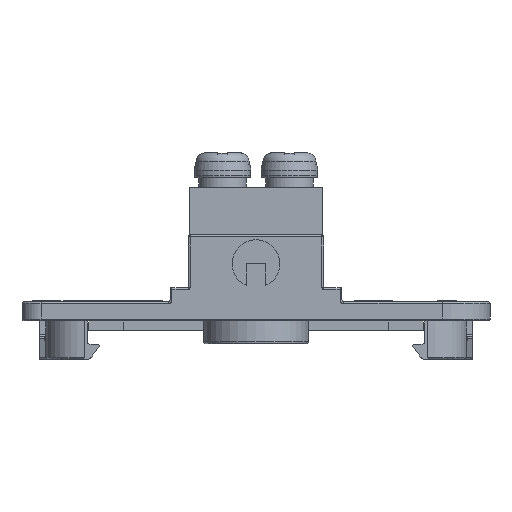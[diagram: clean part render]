
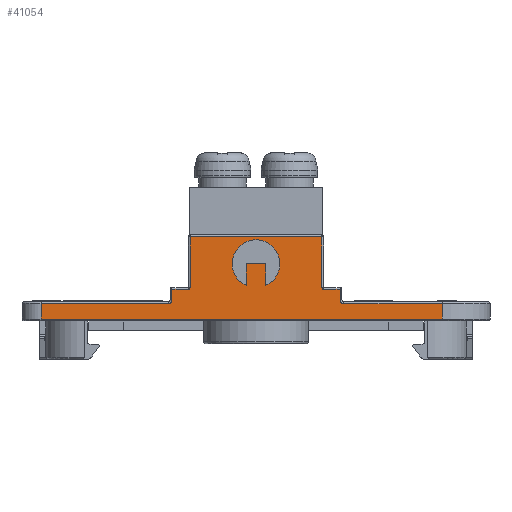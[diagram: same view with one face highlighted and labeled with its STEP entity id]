
A CAD part, left-side view. The second image highlights one B-rep face of the part: STEP entity #41054.
In plain terms, the highlighted planar face has unit normal (-1, 0, 0).
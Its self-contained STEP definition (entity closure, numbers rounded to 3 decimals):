
#2408=LINE('',#58707,#5237);
#2410=LINE('',#58711,#5239);
#2412=LINE('',#58715,#5241);
#2627=LINE('',#59244,#5456);
#2726=LINE('',#59509,#5555);
#2727=LINE('',#59514,#5556);
#2728=LINE('',#59516,#5557);
#2729=LINE('',#59518,#5558);
#2730=LINE('',#59519,#5559);
#2731=LINE('',#59523,#5560);
#2732=LINE('',#59525,#5561);
#2733=LINE('',#59529,#5562);
#2734=LINE('',#59531,#5563);
#2735=LINE('',#59533,#5564);
#2736=LINE('',#59537,#5565);
#5237=VECTOR('',#47704,1000.);
#5239=VECTOR('',#47708,1000.);
#5241=VECTOR('',#47712,1000.);
#5456=VECTOR('',#48117,1000.);
#5555=VECTOR('',#48378,1000.);
#5556=VECTOR('',#48381,1000.);
#5557=VECTOR('',#48382,1000.);
#5558=VECTOR('',#48383,1000.);
#5559=VECTOR('',#48384,1000.);
#5560=VECTOR('',#48387,1000.);
#5561=VECTOR('',#48388,1000.);
#5562=VECTOR('',#48391,1000.);
#5563=VECTOR('',#48392,1000.);
#5564=VECTOR('',#48393,1000.);
#5565=VECTOR('',#48396,1000.);
#10520=ORIENTED_EDGE('',*,*,#17517,.T.);
#10521=ORIENTED_EDGE('',*,*,#17518,.T.);
#10522=ORIENTED_EDGE('',*,*,#17519,.T.);
#10523=ORIENTED_EDGE('',*,*,#17520,.T.);
#10524=ORIENTED_EDGE('',*,*,#17521,.T.);
#10525=ORIENTED_EDGE('',*,*,#17379,.T.);
#10526=ORIENTED_EDGE('',*,*,#17522,.T.);
#10527=ORIENTED_EDGE('',*,*,#17523,.T.);
#10528=ORIENTED_EDGE('',*,*,#17524,.T.);
#10529=ORIENTED_EDGE('',*,*,#17525,.T.);
#10530=ORIENTED_EDGE('',*,*,#17526,.F.);
#10531=ORIENTED_EDGE('',*,*,#17527,.T.);
#10532=ORIENTED_EDGE('',*,*,#17528,.T.);
#10533=ORIENTED_EDGE('',*,*,#17529,.T.);
#10534=ORIENTED_EDGE('',*,*,#17530,.F.);
#10535=ORIENTED_EDGE('',*,*,#17531,.T.);
#10536=ORIENTED_EDGE('',*,*,#17130,.T.);
#10537=ORIENTED_EDGE('',*,*,#17128,.F.);
#10538=ORIENTED_EDGE('',*,*,#17126,.T.);
#10539=ORIENTED_EDGE('',*,*,#17123,.T.);
#17123=EDGE_CURVE('',#20913,#20914,#22525,.T.);
#17126=EDGE_CURVE('',#20915,#20913,#2408,.T.);
#17128=EDGE_CURVE('',#20915,#20916,#2410,.T.);
#17130=EDGE_CURVE('',#20914,#20916,#2412,.T.);
#17379=EDGE_CURVE('',#21136,#21137,#2627,.F.);
#17517=EDGE_CURVE('',#21221,#21222,#2726,.F.);
#17518=EDGE_CURVE('',#21222,#21223,#22599,.F.);
#17519=EDGE_CURVE('',#21223,#21224,#2727,.F.);
#17520=EDGE_CURVE('',#21224,#21225,#2728,.T.);
#17521=EDGE_CURVE('',#21225,#21136,#2729,.F.);
#17522=EDGE_CURVE('',#21137,#21226,#2730,.F.);
#17523=EDGE_CURVE('',#21226,#21227,#22600,.F.);
#17524=EDGE_CURVE('',#21227,#21228,#2731,.F.);
#17525=EDGE_CURVE('',#21228,#21229,#2732,.F.);
#17526=EDGE_CURVE('',#21230,#21229,#22601,.T.);
#17527=EDGE_CURVE('',#21230,#21231,#2733,.F.);
#17528=EDGE_CURVE('',#21231,#21232,#2734,.F.);
#17529=EDGE_CURVE('',#21232,#21233,#2735,.F.);
#17530=EDGE_CURVE('',#21234,#21233,#22602,.T.);
#17531=EDGE_CURVE('',#21234,#21221,#2736,.F.);
#20913=VERTEX_POINT('',#58702);
#20914=VERTEX_POINT('',#58703);
#20915=VERTEX_POINT('',#58708);
#20916=VERTEX_POINT('',#58712);
#21136=VERTEX_POINT('',#59245);
#21137=VERTEX_POINT('',#59246);
#21221=VERTEX_POINT('',#59510);
#21222=VERTEX_POINT('',#59511);
#21223=VERTEX_POINT('',#59513);
#21224=VERTEX_POINT('',#59515);
#21225=VERTEX_POINT('',#59517);
#21226=VERTEX_POINT('',#59520);
#21227=VERTEX_POINT('',#59522);
#21228=VERTEX_POINT('',#59524);
#21229=VERTEX_POINT('',#59526);
#21230=VERTEX_POINT('',#59528);
#21231=VERTEX_POINT('',#59530);
#21232=VERTEX_POINT('',#59532);
#21233=VERTEX_POINT('',#59534);
#21234=VERTEX_POINT('',#59536);
#22525=CIRCLE('',#43039,2.5);
#22599=CIRCLE('',#43219,0.4);
#22600=CIRCLE('',#43220,0.4);
#22601=CIRCLE('',#43221,0.2);
#22602=CIRCLE('',#43222,0.2);
#23855=EDGE_LOOP('',(#10520,#10521,#10522,#10523,#10524,#10525,#10526,#10527,
#10528,#10529,#10530,#10531,#10532,#10533,#10534,#10535));
#23856=EDGE_LOOP('',(#10536,#10537,#10538,#10539));
#25962=FACE_BOUND('',#23855,.T.);
#25963=FACE_BOUND('',#23856,.T.);
#27746=PLANE('',#43218);
#41054=ADVANCED_FACE('',(#25962,#25963),#27746,.T.);
#43039=AXIS2_PLACEMENT_3D('',#58701,#47698,#47699);
#43218=AXIS2_PLACEMENT_3D('',#59508,#48376,#48377);
#43219=AXIS2_PLACEMENT_3D('',#59512,#48379,#48380);
#43220=AXIS2_PLACEMENT_3D('',#59521,#48385,#48386);
#43221=AXIS2_PLACEMENT_3D('',#59527,#48389,#48390);
#43222=AXIS2_PLACEMENT_3D('',#59535,#48394,#48395);
#47698=DIRECTION('',(1.,0.,0.));
#47699=DIRECTION('',(0.,0.,-1.));
#47704=DIRECTION('',(0.,0.,-1.));
#47708=DIRECTION('',(0.,-1.,0.));
#47712=DIRECTION('',(0.,0.,1.));
#48117=DIRECTION('',(0.,0.,-1.));
#48376=DIRECTION('',(-1.,0.,0.));
#48377=DIRECTION('',(0.,-1.,0.));
#48378=DIRECTION('',(0.,0.,1.));
#48379=DIRECTION('',(-1.,0.,0.));
#48380=DIRECTION('',(0.,-1.,0.));
#48381=DIRECTION('',(0.,-1.,0.));
#48382=DIRECTION('',(0.,0.,-1.));
#48383=DIRECTION('',(0.,1.,0.));
#48384=DIRECTION('',(0.,-1.,0.));
#48385=DIRECTION('',(-1.,0.,0.));
#48386=DIRECTION('',(0.,-1.,0.));
#48387=DIRECTION('',(0.,0.,-1.));
#48388=DIRECTION('',(0.,-1.,0.));
#48389=DIRECTION('',(-1.,0.,0.));
#48390=DIRECTION('',(0.,-1.,0.));
#48391=DIRECTION('',(0.,0.,-1.));
#48392=DIRECTION('',(0.,-1.,0.));
#48393=DIRECTION('',(0.,0.,1.));
#48394=DIRECTION('',(-1.,0.,0.));
#48395=DIRECTION('',(0.,-1.,0.));
#48396=DIRECTION('',(0.,-1.,0.));
#58701=CARTESIAN_POINT('',(-57.,0.,6.));
#58702=CARTESIAN_POINT('',(-57.,1.,3.709));
#58703=CARTESIAN_POINT('',(-57.,-1.,3.709));
#58707=CARTESIAN_POINT('',(-57.,1.,4.));
#58708=CARTESIAN_POINT('',(-57.,1.,6.));
#58711=CARTESIAN_POINT('',(-57.,1.,6.));
#58712=CARTESIAN_POINT('',(-57.,-1.,6.));
#58715=CARTESIAN_POINT('',(-57.,-1.,4.));
#59244=CARTESIAN_POINT('',(-57.,-19.5,0.));
#59245=CARTESIAN_POINT('',(-57.,-19.5,0.2));
#59246=CARTESIAN_POINT('',(-57.,-19.5,1.8));
#59508=CARTESIAN_POINT('',(-57.,0.,0.));
#59509=CARTESIAN_POINT('',(-57.,8.8,0.));
#59510=CARTESIAN_POINT('',(-57.,8.8,3.3));
#59511=CARTESIAN_POINT('',(-57.,8.8,2.2));
#59512=CARTESIAN_POINT('',(-57.,9.2,2.2));
#59513=CARTESIAN_POINT('',(-57.,9.2,1.8));
#59514=CARTESIAN_POINT('',(-57.,22.5,1.8));
#59515=CARTESIAN_POINT('',(-57.,22.5,1.8));
#59516=CARTESIAN_POINT('',(-57.,22.5,0.));
#59517=CARTESIAN_POINT('',(-57.,22.5,0.2));
#59518=CARTESIAN_POINT('',(-57.,0.,0.2));
#59519=CARTESIAN_POINT('',(-57.,-9.,1.8));
#59520=CARTESIAN_POINT('',(-57.,-9.2,1.8));
#59521=CARTESIAN_POINT('',(-57.,-9.2,2.2));
#59522=CARTESIAN_POINT('',(-57.,-8.8,2.2));
#59523=CARTESIAN_POINT('',(-57.,-8.8,3.5));
#59524=CARTESIAN_POINT('',(-57.,-8.8,3.3));
#59525=CARTESIAN_POINT('',(-57.,0.,3.3));
#59526=CARTESIAN_POINT('',(-57.,-7.1,3.3));
#59527=CARTESIAN_POINT('',(-57.,-7.1,3.5));
#59528=CARTESIAN_POINT('',(-57.,-6.9,3.5));
#59529=CARTESIAN_POINT('',(-57.,-6.9,0.));
#59530=CARTESIAN_POINT('',(-57.,-6.9,8.8));
#59531=CARTESIAN_POINT('',(-57.,7.1,8.8));
#59532=CARTESIAN_POINT('',(-57.,6.9,8.8));
#59533=CARTESIAN_POINT('',(-57.,6.9,0.));
#59534=CARTESIAN_POINT('',(-57.,6.9,3.5));
#59535=CARTESIAN_POINT('',(-57.,7.1,3.5));
#59536=CARTESIAN_POINT('',(-57.,7.1,3.3));
#59537=CARTESIAN_POINT('',(-57.,9.,3.3));
